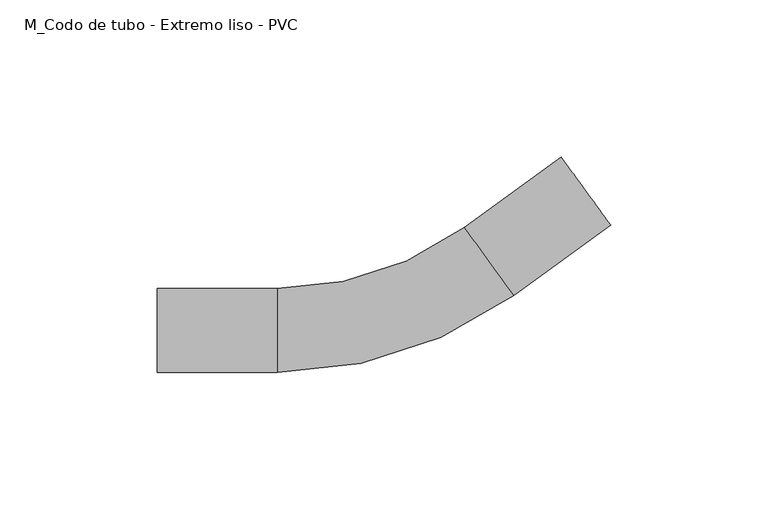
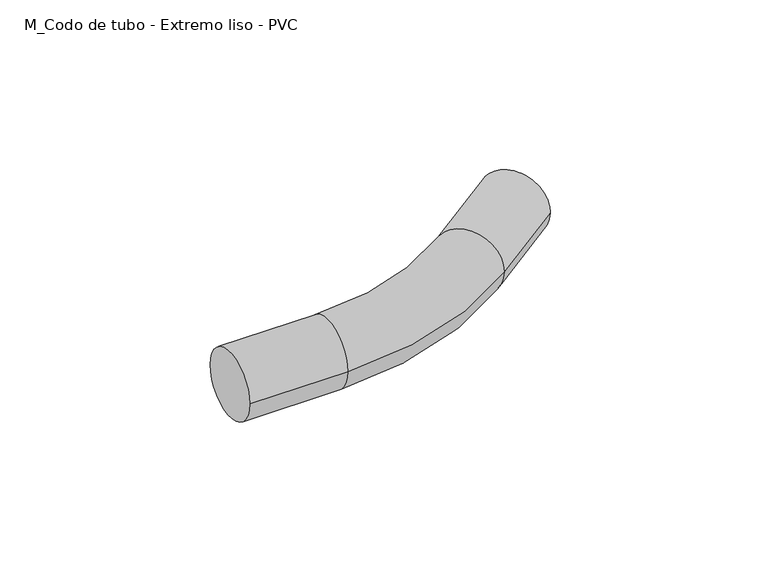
"""IFC4 building model written with IfcOpenShell, lengths in millimetres: cable carrier fitting geometry, M_Codo de tubo - Extremo liso - PVC : CODO ILUMINACION."""

from ifc_helpers import new_model, si_unit, point, frame, origin, place, context, project, spatial, circle_curve, ellipse_curve, trimmed, source, transform, mapped, element, save
from ifc_brep_helpers import plane_surface, cylinder_surface, revolved_surface, advanced_brep


def m_codo_de_tubo_extremo_liso_pvc_7318c099(model_context):
    return source(origin(), model_context, "Body", "AdvancedBrep", [
        advanced_brep(
        [(-75.2383213, -13.335, 0.0), (-75.2383213, 13.335, 0.0), (-37.1383213, -13.335, 0.0), (-37.1383213, 13.335, 0.0), (22.2074167, 32.6175992, 0.0), (37.8836494, 11.0411159, 0.0), (68.7071969, 33.435734, 0.0), (53.0309642, 55.0122173, 0.0)],
        [
            (0, 1, circle_curve(frame((-75.2383213, 0.0, 0.0), z_axis=(-1.0, 0.0, 0.0), x_axis=(0.0, 1.0, 0.0)), 13.335)),
            (1, 0, circle_curve(frame((-75.2383213, 0.0, 0.0), z_axis=(-1.0, 0.0, 0.0), x_axis=(0.0, 1.0, 0.0)), 13.335)),
            (0, 2),
            (2, 3, circle_curve(frame((-37.1383213, 0.0, 0.0), z_axis=(-1.0, 0.0, 0.0), x_axis=(0.0, 1.0, 0.0)), 13.335)),
            (3, 1),
            (3, 2, circle_curve(frame((-37.1383213, 0.0, 0.0), z_axis=(-1.0, 0.0, 0.0), x_axis=(0.0, 1.0, 0.0)), 13.335)),
            (4, 3, circle_curve(frame((-37.1383213, 114.3, 0.0), z_axis=(0.0, 0.0, -1.0), x_axis=(0.0, -1.0, 0.0)), 100.965)),
            (2, 5, circle_curve(frame((-37.1383213, 114.3, 0.0), z_axis=(0.0, 0.0, 1.0), x_axis=(0.0, -1.0, 0.0)), 127.635)),
            (5, 4, circle_curve(frame((30.0455331, 21.8293575, 0.0), z_axis=(-0.8090169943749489, -0.587785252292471, 0.0), x_axis=(-0.587785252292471, 0.8090169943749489, 0.0)), 13.335)),
            (4, 5, circle_curve(frame((30.0455331, 21.8293575, 0.0), z_axis=(-0.8090169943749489, -0.5877852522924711, 0.0), x_axis=(-0.5877852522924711, 0.8090169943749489, 0.0)), 13.335)),
            (6, 7, circle_curve(frame((60.8690805, 44.2239757, 0.0), z_axis=(0.8090169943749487, 0.5877852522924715, 0.0), x_axis=(-0.5877852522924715, 0.8090169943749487, 0.0)), 13.335)),
            (7, 6, circle_curve(frame((60.8690805, 44.2239757, 0.0), z_axis=(0.8090169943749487, 0.5877852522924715, 0.0), x_axis=(-0.5877852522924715, 0.8090169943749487, 0.0)), 13.335)),
            (5, 6),
            (7, 4),
        ],
        [
            plane_surface(frame((-75.2383213, 0.0, 0.0), z_axis=(-1.0, 0.0, 0.0), x_axis=(0.0, 0.0, 1.0))),
            cylinder_surface(frame((-75.2383213, 0.0, 0.0), z_axis=(-1.0, 0.0, 0.0), x_axis=(0.0, 1.0, 0.0)), 13.335),
            revolved_surface(trimmed(ellipse_curve(frame((-37.1383213, 0.0, 0.0), z_axis=(-1.0, 0.0, 0.0), x_axis=(0.0, 1.0, 0.0)), 13.335, 13.335), [point((-37.1383213, -13.335, 0.0))], [point((-37.1383213, 13.335, 0.0))], True, "CARTESIAN"), (-37.1383213, 114.3, 0.0), (0.0, 0.0, 1.0)),
            revolved_surface(trimmed(ellipse_curve(frame((-37.1383213, 0.0, 0.0), z_axis=(-1.0, 0.0, 0.0), x_axis=(0.0, 1.0, 0.0)), 13.335, 13.335), [point((-37.1383213, 13.335, 0.0))], [point((-37.1383213, -13.335, 0.0))], True, "CARTESIAN"), (-37.1383213, 114.3, 0.0), (0.0, 0.0, 1.0)),
            plane_surface(frame((60.8690805, 44.2239757, 0.0), z_axis=(0.8090169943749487, 0.5877852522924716, 0.0), x_axis=(0.0, 0.0, 1.0))),
            cylinder_surface(frame((30.0455331, 21.8293575, 0.0), z_axis=(-0.8090169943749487, -0.5877852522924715, 0.0), x_axis=(-0.5877852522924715, 0.8090169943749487, 0.0)), 13.335),
        ],
        [
            (0, [[1, 2]]),
            (1, [[-1, 3, 4, 5]]),
            (1, [[-2, -5, 6, -3]]),
            (2, [[7, -4, 8, 9]]),
            (3, [[-8, -6, -7, 10]]),
            (4, [[11, 12]]),
            (5, [[-9, 13, -12, 14]]),
            (5, [[-10, -14, -11, -13]]),
        ],
    ),
    ])


if __name__ == "__main__":
    model = new_model("IFC4")
    model_context = context("Model", 3, world=origin())
    ifc_project = project(units=[si_unit("LENGTHUNIT", "METRE", prefix="MILLI")], contexts=[model_context])
    site = spatial("IfcSite", under=ifc_project)
    building = spatial("IfcBuilding", under=site)
    placement = place(None, origin())
    m_codo_de_tubo_extremo_liso_pvc_shape = m_codo_de_tubo_extremo_liso_pvc_7318c099(model_context)
    element("IfcCableCarrierFitting", 1, ObjectType="M_Codo de tubo - Extremo liso - PVC : CODO ILUMINACION", at=placement, inside=building, context=model_context, shape_type="MappedRepresentation", body=[
        mapped(m_codo_de_tubo_extremo_liso_pvc_shape, transform((0.0, 0.0, 0.0), x_axis=(1.0, 0.0, 0.0), y_axis=(0.0, 1.0, 0.0), z_axis=(0.0, 0.0, 1.0))),
    ])
    save(model, "model.ifc")
